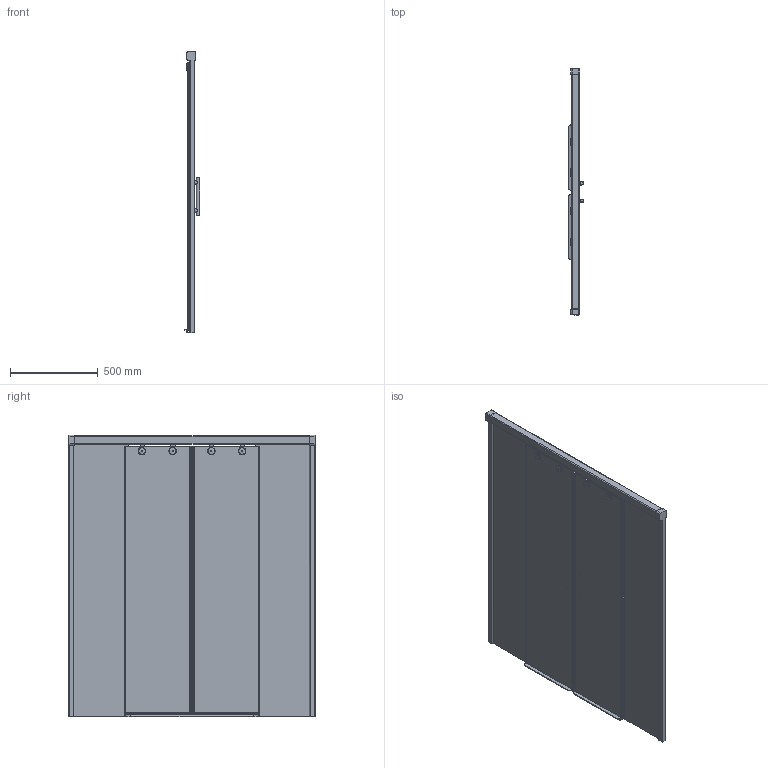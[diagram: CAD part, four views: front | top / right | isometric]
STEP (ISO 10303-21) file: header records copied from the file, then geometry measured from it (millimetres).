
FILE_DESCRIPTION(/* description */ (''),/* implementation_level */ '2;1');
FILE_NAME(/* name */ 'E:\Работа\Сергей\Душевые кабинки\! Работа\777\SLIDE PART GV-864\SLIDE PART GV-864-3D.stp',/* time_stamp */ '2018-04-22T10:31:37+03:00',/* author */ ('PC'),/* organization */ (''),/* preprocessor_version */ 'ST-DEVELOPER v15.2',/* originating_system */ 'Autodesk Inventor 2014',/* authorisation */ '');
FILE_SCHEMA (('AUTOMOTIVE_DESIGN { 1 0 10303 214 3 1 1 }'));
Length unit declared in the file: millimetre
Products named in the file (1): SLIDE PART GV-864-3D
Bounding box: 87 x 1400 x 1601.5 mm (x, y, z)
Volume: 21126037 mm3; surface area: 5438342.3 mm2
Topology: 4 solids, 8 shells, 737 faces, 2045 edges, 1337 vertices
Faces by surface type: plane 455, cylinder 239, torus 30, bspline 13
Full cylindrical faces by diameter (mm): 20 x6, 37 x8, 42 x8
Entity records: 24644 total; most frequent: CARTESIAN_POINT 4975, ORIENTED_EDGE 3980, DIRECTION 3884, EDGE_CURVE 1987, LINE 1370, VECTOR 1370, VERTEX_POINT 1321, AXIS2_PLACEMENT_3D 1257
